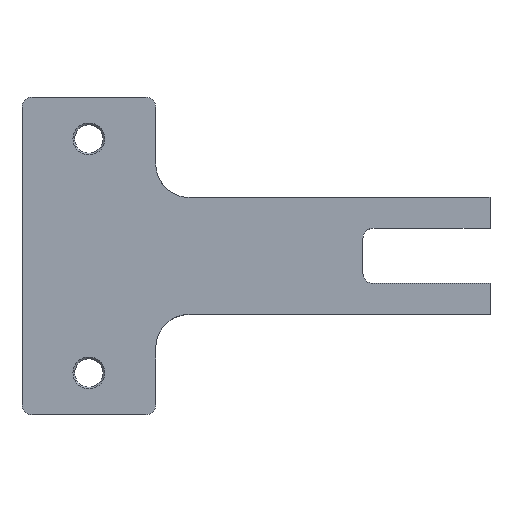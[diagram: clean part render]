
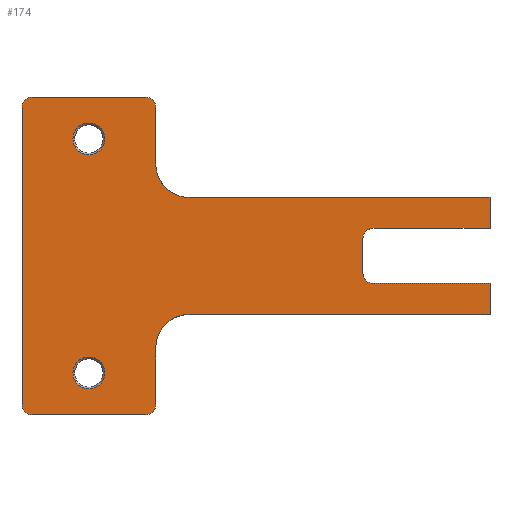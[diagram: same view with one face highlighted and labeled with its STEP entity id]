
A CAD part, top view. The second image highlights one B-rep face of the part: STEP entity #174.
In plain terms, the highlighted planar face has unit normal (0, 0, 1).
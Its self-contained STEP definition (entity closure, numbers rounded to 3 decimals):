
#104=FACE_BOUND('',#257,.T.);
#105=FACE_BOUND('',#258,.T.);
#106=FACE_BOUND('',#259,.T.);
#145=CIRCLE('',#749,3.);
#146=CIRCLE('',#750,3.);
#147=CIRCLE('',#751,10.);
#148=CIRCLE('',#752,3.);
#149=CIRCLE('',#753,3.);
#150=CIRCLE('',#754,3.);
#151=CIRCLE('',#755,3.);
#152=CIRCLE('',#756,10.);
#153=CIRCLE('',#757,4.75);
#154=CIRCLE('',#758,4.75);
#174=ADVANCED_FACE('',(#104,#105,#106),#210,.T.);
#210=PLANE('',#759);
#257=EDGE_LOOP('',(#320,#321,#322,#323,#324,#325,#326,#327,#328,#329,#330,
#331,#332,#333,#334,#335,#336,#337,#338,#339));
#258=EDGE_LOOP('',(#340));
#259=EDGE_LOOP('',(#341));
#320=ORIENTED_EDGE('',*,*,#557,.F.);
#321=ORIENTED_EDGE('',*,*,#558,.T.);
#322=ORIENTED_EDGE('',*,*,#559,.T.);
#323=ORIENTED_EDGE('',*,*,#560,.T.);
#324=ORIENTED_EDGE('',*,*,#561,.T.);
#325=ORIENTED_EDGE('',*,*,#562,.F.);
#326=ORIENTED_EDGE('',*,*,#553,.F.);
#327=ORIENTED_EDGE('',*,*,#563,.T.);
#328=ORIENTED_EDGE('',*,*,#564,.T.);
#329=ORIENTED_EDGE('',*,*,#565,.T.);
#330=ORIENTED_EDGE('',*,*,#566,.F.);
#331=ORIENTED_EDGE('',*,*,#567,.T.);
#332=ORIENTED_EDGE('',*,*,#568,.F.);
#333=ORIENTED_EDGE('',*,*,#569,.T.);
#334=ORIENTED_EDGE('',*,*,#570,.T.);
#335=ORIENTED_EDGE('',*,*,#571,.T.);
#336=ORIENTED_EDGE('',*,*,#572,.F.);
#337=ORIENTED_EDGE('',*,*,#573,.T.);
#338=ORIENTED_EDGE('',*,*,#555,.F.);
#339=ORIENTED_EDGE('',*,*,#543,.F.);
#340=ORIENTED_EDGE('',*,*,#574,.T.);
#341=ORIENTED_EDGE('',*,*,#575,.T.);
#480=VERTEX_POINT('',#1014);
#482=VERTEX_POINT('',#1017);
#487=VERTEX_POINT('',#1030);
#490=VERTEX_POINT('',#1036);
#492=VERTEX_POINT('',#1042);
#493=VERTEX_POINT('',#1046);
#494=VERTEX_POINT('',#1048);
#495=VERTEX_POINT('',#1050);
#496=VERTEX_POINT('',#1052);
#497=VERTEX_POINT('',#1054);
#498=VERTEX_POINT('',#1057);
#499=VERTEX_POINT('',#1059);
#500=VERTEX_POINT('',#1061);
#501=VERTEX_POINT('',#1063);
#502=VERTEX_POINT('',#1065);
#503=VERTEX_POINT('',#1067);
#504=VERTEX_POINT('',#1069);
#505=VERTEX_POINT('',#1071);
#506=VERTEX_POINT('',#1073);
#507=VERTEX_POINT('',#1075);
#508=VERTEX_POINT('',#1078);
#509=VERTEX_POINT('',#1080);
#543=EDGE_CURVE('',#480,#482,#632,.T.);
#553=EDGE_CURVE('',#490,#487,#639,.T.);
#555=EDGE_CURVE('',#482,#492,#641,.T.);
#557=EDGE_CURVE('',#493,#480,#643,.T.);
#558=EDGE_CURVE('',#493,#494,#145,.T.);
#559=EDGE_CURVE('',#494,#495,#644,.T.);
#560=EDGE_CURVE('',#495,#496,#146,.T.);
#561=EDGE_CURVE('',#496,#497,#645,.T.);
#562=EDGE_CURVE('',#487,#497,#646,.T.);
#563=EDGE_CURVE('',#490,#498,#147,.T.);
#564=EDGE_CURVE('',#498,#499,#647,.T.);
#565=EDGE_CURVE('',#499,#500,#148,.T.);
#566=EDGE_CURVE('',#501,#500,#648,.T.);
#567=EDGE_CURVE('',#501,#502,#149,.T.);
#568=EDGE_CURVE('',#503,#502,#649,.T.);
#569=EDGE_CURVE('',#503,#504,#150,.T.);
#570=EDGE_CURVE('',#504,#505,#650,.T.);
#571=EDGE_CURVE('',#505,#506,#151,.T.);
#572=EDGE_CURVE('',#507,#506,#651,.T.);
#573=EDGE_CURVE('',#507,#492,#152,.T.);
#574=EDGE_CURVE('',#508,#508,#153,.T.);
#575=EDGE_CURVE('',#509,#509,#154,.T.);
#632=LINE('',#1016,#687);
#639=LINE('',#1037,#694);
#641=LINE('',#1041,#696);
#643=LINE('',#1045,#698);
#644=LINE('',#1049,#699);
#645=LINE('',#1053,#700);
#646=LINE('',#1055,#701);
#647=LINE('',#1058,#702);
#648=LINE('',#1062,#703);
#649=LINE('',#1066,#704);
#650=LINE('',#1070,#705);
#651=LINE('',#1074,#706);
#687=VECTOR('',#816,1.);
#694=VECTOR('',#833,1.);
#696=VECTOR('',#837,1.);
#698=VECTOR('',#841,1.);
#699=VECTOR('',#844,1.);
#700=VECTOR('',#847,1.);
#701=VECTOR('',#848,1.);
#702=VECTOR('',#851,1.);
#703=VECTOR('',#854,1.);
#704=VECTOR('',#857,1.);
#705=VECTOR('',#860,1.);
#706=VECTOR('',#863,1.);
#749=AXIS2_PLACEMENT_3D('',#1047,#842,#843);
#750=AXIS2_PLACEMENT_3D('',#1051,#845,#846);
#751=AXIS2_PLACEMENT_3D('',#1056,#849,#850);
#752=AXIS2_PLACEMENT_3D('',#1060,#852,#853);
#753=AXIS2_PLACEMENT_3D('',#1064,#855,#856);
#754=AXIS2_PLACEMENT_3D('',#1068,#858,#859);
#755=AXIS2_PLACEMENT_3D('',#1072,#861,#862);
#756=AXIS2_PLACEMENT_3D('',#1076,#864,#865);
#757=AXIS2_PLACEMENT_3D('',#1077,#866,#867);
#758=AXIS2_PLACEMENT_3D('',#1079,#868,#869);
#759=AXIS2_PLACEMENT_3D('',#1081,#870,#871);
#816=DIRECTION('',(0.,-1.,0.));
#833=DIRECTION('',(1.,0.,0.));
#837=DIRECTION('',(-1.,0.,0.));
#841=DIRECTION('',(1.,0.,0.));
#842=DIRECTION('',(0.,0.,-1.));
#843=DIRECTION('',(1.,0.,0.));
#844=DIRECTION('',(0.,1.,0.));
#845=DIRECTION('',(0.,0.,-1.));
#846=DIRECTION('',(1.,0.,0.));
#847=DIRECTION('',(1.,0.,0.));
#848=DIRECTION('',(0.,-1.,0.));
#849=DIRECTION('',(0.,0.,-1.));
#850=DIRECTION('',(1.,0.,0.));
#851=DIRECTION('',(0.,1.,0.));
#852=DIRECTION('',(0.,0.,1.));
#853=DIRECTION('',(1.,0.,0.));
#854=DIRECTION('',(1.,0.,0.));
#855=DIRECTION('',(0.,0.,1.));
#856=DIRECTION('',(1.,0.,0.));
#857=DIRECTION('',(0.,1.,0.));
#858=DIRECTION('',(0.,0.,1.));
#859=DIRECTION('',(1.,0.,0.));
#860=DIRECTION('',(1.,0.,0.));
#861=DIRECTION('',(0.,0.,1.));
#862=DIRECTION('',(1.,0.,0.));
#863=DIRECTION('',(0.,-1.,0.));
#864=DIRECTION('',(0.,0.,-1.));
#865=DIRECTION('',(1.,0.,0.));
#866=DIRECTION('',(0.,0.,-1.));
#867=DIRECTION('',(1.,0.,0.));
#868=DIRECTION('',(0.,0.,-1.));
#869=DIRECTION('',(1.,0.,0.));
#870=DIRECTION('',(0.,0.,1.));
#871=DIRECTION('',(1.,0.,0.));
#1014=CARTESIAN_POINT('',(140.,9.25,8.));
#1016=CARTESIAN_POINT('',(140.,17.5,8.));
#1017=CARTESIAN_POINT('',(140.,0.,8.));
#1030=CARTESIAN_POINT('',(140.,35.,8.));
#1036=CARTESIAN_POINT('',(50.,35.,8.));
#1037=CARTESIAN_POINT('',(70.,35.,8.));
#1041=CARTESIAN_POINT('',(70.,0.,8.));
#1042=CARTESIAN_POINT('',(50.,0.,8.));
#1045=CARTESIAN_POINT('',(102.,9.25,8.));
#1046=CARTESIAN_POINT('',(105.,9.25,8.));
#1047=CARTESIAN_POINT('',(105.,12.25,8.));
#1048=CARTESIAN_POINT('',(102.,12.25,8.));
#1049=CARTESIAN_POINT('',(102.,9.25,8.));
#1050=CARTESIAN_POINT('',(102.,22.75,8.));
#1051=CARTESIAN_POINT('',(105.,22.75,8.));
#1052=CARTESIAN_POINT('',(105.,25.75,8.));
#1053=CARTESIAN_POINT('',(102.,25.75,8.));
#1054=CARTESIAN_POINT('',(140.,25.75,8.));
#1055=CARTESIAN_POINT('',(140.,17.5,8.));
#1056=CARTESIAN_POINT('',(50.,45.,8.));
#1057=CARTESIAN_POINT('',(40.,45.,8.));
#1058=CARTESIAN_POINT('',(40.,35.,8.));
#1059=CARTESIAN_POINT('',(40.,62.,8.));
#1060=CARTESIAN_POINT('',(37.,62.,8.));
#1061=CARTESIAN_POINT('',(37.,65.,8.));
#1062=CARTESIAN_POINT('',(0.,65.,8.));
#1063=CARTESIAN_POINT('',(3.,65.,8.));
#1064=CARTESIAN_POINT('',(3.,62.,8.));
#1065=CARTESIAN_POINT('',(0.,62.,8.));
#1066=CARTESIAN_POINT('',(0.,17.5,8.));
#1067=CARTESIAN_POINT('',(0.,-27.,8.));
#1068=CARTESIAN_POINT('',(3.,-27.,8.));
#1069=CARTESIAN_POINT('',(3.,-30.,8.));
#1070=CARTESIAN_POINT('',(0.,-30.,8.));
#1071=CARTESIAN_POINT('',(37.,-30.,8.));
#1072=CARTESIAN_POINT('',(37.,-27.,8.));
#1073=CARTESIAN_POINT('',(40.,-27.,8.));
#1074=CARTESIAN_POINT('',(40.,0.,8.));
#1075=CARTESIAN_POINT('',(40.,-10.,8.));
#1076=CARTESIAN_POINT('',(50.,-10.,8.));
#1077=CARTESIAN_POINT('',(20.,-17.5,8.));
#1078=CARTESIAN_POINT('',(24.75,-17.5,8.));
#1079=CARTESIAN_POINT('',(20.,52.5,8.));
#1080=CARTESIAN_POINT('',(24.75,52.5,8.));
#1081=CARTESIAN_POINT('',(70.,17.5,8.));
